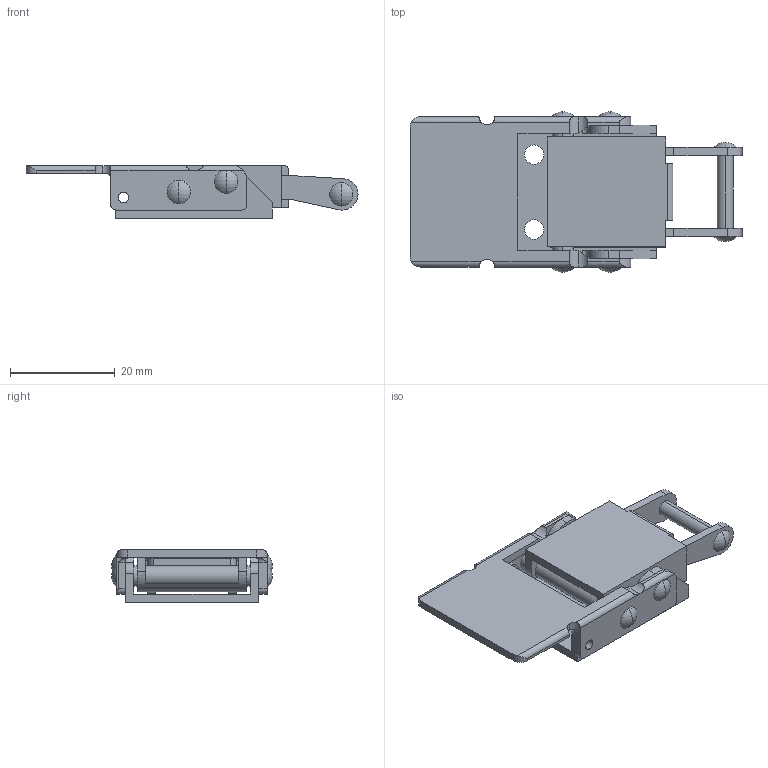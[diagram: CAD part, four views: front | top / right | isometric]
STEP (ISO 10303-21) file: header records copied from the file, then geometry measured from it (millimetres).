
FILE_DESCRIPTION((''),'2;1');
FILE_NAME('6203.01.30.stp','2013-12-04T16:37:26',(''),(''),'Mechanical Desktop 2006','Mechanical Desktop 2006',', , ');
FILE_SCHEMA(('CONFIG_CONTROL_DESIGN'));
Length unit declared in the file: millimetre
Products named in the file (5): 6203.01.30; TEIL1; TEIL2; TEIL3; TEIL4
Assembly tree (4 placements, depth 2):
  6203.01.30
    TEIL1
    TEIL2
    TEIL3
    TEIL4
Bounding box: 63.4 x 30.7 x 10.1 mm (x, y, z)
Volume: 6087.4 mm3; surface area: 8622 mm2
Topology: 4 solids, 4 shells, 165 faces, 440 edges, 293 vertices
Faces by surface type: cylinder 78, plane 75, sphere 12
Entity records: 5728 total; most frequent: CARTESIAN_POINT 1280, DIRECTION 927, ORIENTED_EDGE 880, EDGE_CURVE 440, AXIS2_PLACEMENT_3D 334, VERTEX_POINT 293, VECTOR 259, LINE 259
